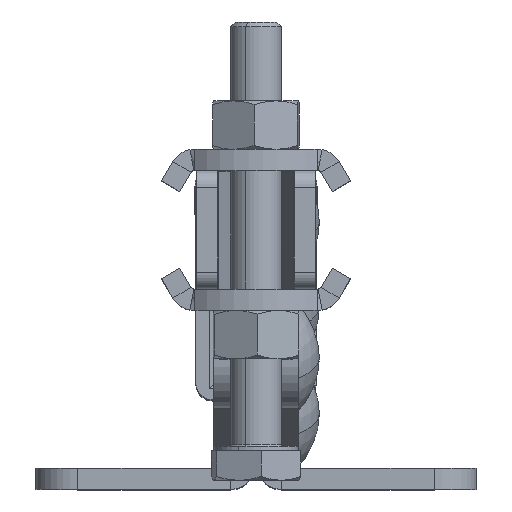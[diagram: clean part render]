
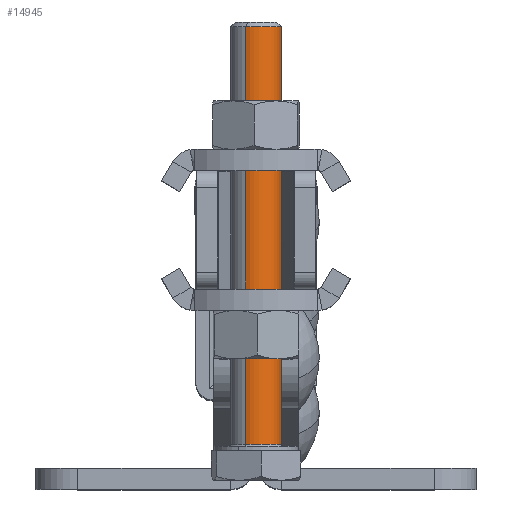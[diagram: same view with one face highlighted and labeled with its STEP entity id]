
A CAD part, top view. The second image highlights one B-rep face of the part: STEP entity #14945.
In plain terms, the highlighted cylindrical face has radius 3 mm (diameter 6 mm), a partial arc.
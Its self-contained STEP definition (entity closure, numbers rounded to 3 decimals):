
#13 = CARTESIAN_POINT ( 'NONE',  ( 4.25, 0., -3. ) ) ;
#444 = CARTESIAN_POINT ( 'NONE',  ( 0., 0., 0. ) ) ;
#2233 = DIRECTION ( 'NONE',  ( 1., 0., 0. ) ) ;
#3066 = VERTEX_POINT ( 'NONE', #13 ) ;
#3326 = EDGE_LOOP ( 'NONE', ( #49775, #19856, #11325, #26982 ) ) ;
#3429 = LINE ( 'NONE', #7620, #44308 ) ;
#6640 = CARTESIAN_POINT ( 'NONE',  ( 4.25, 0., 3. ) ) ;
#7620 = CARTESIAN_POINT ( 'NONE',  ( 0., 0., 3. ) ) ;
#7970 = CIRCLE ( 'NONE', #44031, 3. ) ;
#8658 = VECTOR ( 'NONE', #47560, 1000. ) ;
#9892 = EDGE_CURVE ( 'NONE', #10834, #3066, #19183, .T. ) ;
#10027 = EDGE_CURVE ( 'NONE', #30617, #10834, #11751, .T. ) ;
#10653 = EDGE_CURVE ( 'NONE', #3066, #50624, #7970, .T. ) ;
#10834 = VERTEX_POINT ( 'NONE', #18178 ) ;
#11325 = ORIENTED_EDGE ( 'NONE', *, *, #10653, .T. ) ;
#11751 = CIRCLE ( 'NONE', #46012, 3. ) ;
#11912 = CARTESIAN_POINT ( 'NONE',  ( 0., 0., -3. ) ) ;
#12421 = DIRECTION ( 'NONE',  ( -1., 0., 0. ) ) ;
#14158 = EDGE_CURVE ( 'NONE', #30617, #50624, #3429, .T. ) ;
#14945 = ADVANCED_FACE ( 'NONE', ( #31188 ), #29934, .T. ) ;
#18178 = CARTESIAN_POINT ( 'NONE',  ( 53.445, 0., -3. ) ) ;
#19183 = LINE ( 'NONE', #11912, #8658 ) ;
#19856 = ORIENTED_EDGE ( 'NONE', *, *, #9892, .T. ) ;
#20210 = DIRECTION ( 'NONE',  ( 0., 0., 1. ) ) ;
#20890 = CARTESIAN_POINT ( 'NONE',  ( 53.445, 0., 0. ) ) ;
#23521 = DIRECTION ( 'NONE',  ( -1., 0., 0. ) ) ;
#24832 = DIRECTION ( 'NONE',  ( 0., 0., 1. ) ) ;
#25983 = CARTESIAN_POINT ( 'NONE',  ( 4.25, 0., 0. ) ) ;
#26982 = ORIENTED_EDGE ( 'NONE', *, *, #14158, .F. ) ;
#29934 = CYLINDRICAL_SURFACE ( 'NONE', #47844, 3. ) ;
#29986 = DIRECTION ( 'NONE',  ( 0., 0., -1. ) ) ;
#30617 = VERTEX_POINT ( 'NONE', #42805 ) ;
#31188 = FACE_OUTER_BOUND ( 'NONE', #3326, .T. ) ;
#42805 = CARTESIAN_POINT ( 'NONE',  ( 53.445, 0., 3. ) ) ;
#44031 = AXIS2_PLACEMENT_3D ( 'NONE', #25983, #2233, #29986 ) ;
#44308 = VECTOR ( 'NONE', #23521, 1000. ) ;
#46012 = AXIS2_PLACEMENT_3D ( 'NONE', #20890, #48582, #24832 ) ;
#47560 = DIRECTION ( 'NONE',  ( -1., 0., 0. ) ) ;
#47844 = AXIS2_PLACEMENT_3D ( 'NONE', #444, #12421, #20210 ) ;
#48582 = DIRECTION ( 'NONE',  ( -1., 0., 0. ) ) ;
#49775 = ORIENTED_EDGE ( 'NONE', *, *, #10027, .T. ) ;
#50624 = VERTEX_POINT ( 'NONE', #6640 ) ;
